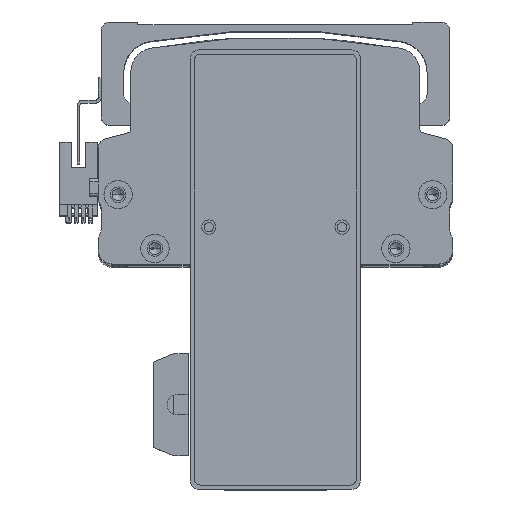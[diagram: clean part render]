
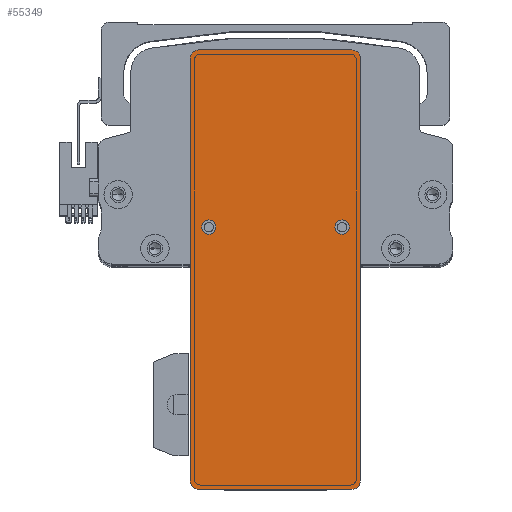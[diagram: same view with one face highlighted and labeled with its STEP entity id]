
A CAD part, top view. The second image highlights one B-rep face of the part: STEP entity #55349.
In plain terms, the highlighted planar face has unit normal (0, 0, 1) as drawn and (0, 0, -1) by its records, which use the part's own axes.
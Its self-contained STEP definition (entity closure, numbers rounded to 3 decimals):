
#164 = DIRECTION ( 'NONE',  ( 1., 0., 0. ) ) ;
#1094 = AXIS2_PLACEMENT_3D ( 'NONE', #57608, #21061, #63761 ) ;
#2536 = VERTEX_POINT ( 'NONE', #43710 ) ;
#3455 = CARTESIAN_POINT ( 'NONE',  ( 0., 0., 0. ) ) ;
#4105 = VERTEX_POINT ( 'NONE', #49235 ) ;
#4913 = EDGE_CURVE ( 'NONE', #64335, #4105, #44412, .T. ) ;
#4998 = DIRECTION ( 'NONE',  ( 0., -1., 0. ) ) ;
#5241 = EDGE_CURVE ( 'NONE', #64335, #20238, #58691, .T. ) ;
#5399 = ORIENTED_EDGE ( 'NONE', *, *, #66113, .F. ) ;
#5611 = ORIENTED_EDGE ( 'NONE', *, *, #6610, .F. ) ;
#5616 = DIRECTION ( 'NONE',  ( 0., 0., -1. ) ) ;
#6035 = CIRCLE ( 'NONE', #15351, 2.5 ) ;
#6610 = EDGE_CURVE ( 'NONE', #39983, #20238, #24691, .T. ) ;
#7161 = ORIENTED_EDGE ( 'NONE', *, *, #43309, .F. ) ;
#7729 = LINE ( 'NONE', #17271, #52618 ) ;
#9559 = DIRECTION ( 'NONE',  ( 1., 0., 0. ) ) ;
#10284 = AXIS2_PLACEMENT_3D ( 'NONE', #60640, #24107, #66817 ) ;
#11219 = CARTESIAN_POINT ( 'NONE',  ( 77.5, -27., 0. ) ) ;
#12627 = CARTESIAN_POINT ( 'NONE',  ( 15., -23.5, 0. ) ) ;
#14011 = CARTESIAN_POINT ( 'NONE',  ( 74.5, 30., 0. ) ) ;
#14229 = CIRCLE ( 'NONE', #45163, 2.5 ) ;
#15096 = FACE_BOUND ( 'NONE', #57802, .T. ) ;
#15351 = AXIS2_PLACEMENT_3D ( 'NONE', #21826, #64534, #27993 ) ;
#15416 = PLANE ( 'NONE',  #32090 ) ;
#15446 = EDGE_CURVE ( 'NONE', #21681, #23137, #6035, .T. ) ;
#17271 = CARTESIAN_POINT ( 'NONE',  ( -77.5, -30., 0. ) ) ;
#17898 = DIRECTION ( 'NONE',  ( 0., 0., -1. ) ) ;
#18727 = DIRECTION ( 'NONE',  ( -1., 0., 0. ) ) ;
#19862 = CARTESIAN_POINT ( 'NONE',  ( 12.5, -23.5, 0. ) ) ;
#20238 = VERTEX_POINT ( 'NONE', #73785 ) ;
#21061 = DIRECTION ( 'NONE',  ( 0., 0., -1. ) ) ;
#21681 = VERTEX_POINT ( 'NONE', #40998 ) ;
#21826 = CARTESIAN_POINT ( 'NONE',  ( 15., 23.5, 0. ) ) ;
#22693 = VERTEX_POINT ( 'NONE', #53913 ) ;
#22969 = EDGE_CURVE ( 'NONE', #22693, #68804, #56086, .T. ) ;
#23121 = CARTESIAN_POINT ( 'NONE',  ( 15., 23.5, 0. ) ) ;
#23137 = VERTEX_POINT ( 'NONE', #71738 ) ;
#23235 = CIRCLE ( 'NONE', #52946, 2.5 ) ;
#24107 = DIRECTION ( 'NONE',  ( 0., 0., -1. ) ) ;
#24648 = ORIENTED_EDGE ( 'NONE', *, *, #36198, .T. ) ;
#24691 = LINE ( 'NONE', #78177, #69584 ) ;
#24938 = AXIS2_PLACEMENT_3D ( 'NONE', #61955, #25413, #68106 ) ;
#25413 = DIRECTION ( 'NONE',  ( 0., 0., -1. ) ) ;
#26981 = EDGE_LOOP ( 'NONE', ( #5611, #58649, #7161, #41375, #68090, #24648, #48370, #32953 ) ) ;
#27993 = DIRECTION ( 'NONE',  ( -1., 0., 0. ) ) ;
#29276 = DIRECTION ( 'NONE',  ( -1., 0., 0. ) ) ;
#29732 = EDGE_CURVE ( 'NONE', #39983, #52616, #54121, .T. ) ;
#32090 = AXIS2_PLACEMENT_3D ( 'NONE', #3455, #46035, #9559 ) ;
#32953 = ORIENTED_EDGE ( 'NONE', *, *, #5241, .T. ) ;
#33035 = ORIENTED_EDGE ( 'NONE', *, *, #22969, .F. ) ;
#36198 = EDGE_CURVE ( 'NONE', #2536, #4105, #78699, .T. ) ;
#36681 = CARTESIAN_POINT ( 'NONE',  ( 77.5, -30., 0. ) ) ;
#37044 = VECTOR ( 'NONE', #164, 1000. ) ;
#37217 = EDGE_CURVE ( 'NONE', #2536, #54632, #7729, .T. ) ;
#39983 = VERTEX_POINT ( 'NONE', #11219 ) ;
#40998 = CARTESIAN_POINT ( 'NONE',  ( 17.5, 23.5, 0. ) ) ;
#41375 = ORIENTED_EDGE ( 'NONE', *, *, #50850, .T. ) ;
#42163 = CARTESIAN_POINT ( 'NONE',  ( -74.5, -27., 0. ) ) ;
#42325 = CARTESIAN_POINT ( 'NONE',  ( -74.5, -30., 0. ) ) ;
#43309 = EDGE_CURVE ( 'NONE', #51404, #52616, #71473, .T. ) ;
#43710 = CARTESIAN_POINT ( 'NONE',  ( -77.5, 27., 0. ) ) ;
#44412 = LINE ( 'NONE', #68976, #75049 ) ;
#45163 = AXIS2_PLACEMENT_3D ( 'NONE', #12627, #55270, #18727 ) ;
#46035 = DIRECTION ( 'NONE',  ( 0., 0., 1. ) ) ;
#48307 = DIRECTION ( 'NONE',  ( 1., 0., 0. ) ) ;
#48370 = ORIENTED_EDGE ( 'NONE', *, *, #4913, .F. ) ;
#49235 = CARTESIAN_POINT ( 'NONE',  ( -74.5, 30., 0. ) ) ;
#49669 = CARTESIAN_POINT ( 'NONE',  ( -77.5, -27., 0. ) ) ;
#50708 = CIRCLE ( 'NONE', #53258, 3. ) ;
#50850 = EDGE_CURVE ( 'NONE', #51404, #54632, #50708, .T. ) ;
#51376 = FACE_BOUND ( 'NONE', #74445, .T. ) ;
#51404 = VERTEX_POINT ( 'NONE', #42325 ) ;
#52574 = EDGE_CURVE ( 'NONE', #68804, #22693, #14229, .T. ) ;
#52616 = VERTEX_POINT ( 'NONE', #55523 ) ;
#52618 = VECTOR ( 'NONE', #4998, 1000. ) ;
#52946 = AXIS2_PLACEMENT_3D ( 'NONE', #23121, #65831, #29276 ) ;
#53258 = AXIS2_PLACEMENT_3D ( 'NONE', #42163, #5616, #48307 ) ;
#53913 = CARTESIAN_POINT ( 'NONE',  ( 17.5, -23.5, 0. ) ) ;
#54121 = CIRCLE ( 'NONE', #10284, 3. ) ;
#54434 = CARTESIAN_POINT ( 'NONE',  ( -74.5, 27., 0. ) ) ;
#54632 = VERTEX_POINT ( 'NONE', #49669 ) ;
#55270 = DIRECTION ( 'NONE',  ( 0., 0., -1. ) ) ;
#55349 = ADVANCED_FACE ( 'NONE', ( #15096, #51376, #63790 ), #15416, .F. ) ;
#55523 = CARTESIAN_POINT ( 'NONE',  ( 74.5, -30., 0. ) ) ;
#56086 = CIRCLE ( 'NONE', #1094, 2.5 ) ;
#57608 = CARTESIAN_POINT ( 'NONE',  ( 15., -23.5, 0. ) ) ;
#57802 = EDGE_LOOP ( 'NONE', ( #5399, #71823 ) ) ;
#58649 = ORIENTED_EDGE ( 'NONE', *, *, #29732, .T. ) ;
#58691 = CIRCLE ( 'NONE', #24938, 3. ) ;
#59951 = DIRECTION ( 'NONE',  ( 0., 1., 0. ) ) ;
#60570 = DIRECTION ( 'NONE',  ( 1., 0., 0. ) ) ;
#60640 = CARTESIAN_POINT ( 'NONE',  ( 74.5, -27., 0. ) ) ;
#61955 = CARTESIAN_POINT ( 'NONE',  ( 74.5, 27., 0. ) ) ;
#63083 = DIRECTION ( 'NONE',  ( -1., 0., 0. ) ) ;
#63761 = DIRECTION ( 'NONE',  ( -1., 0., 0. ) ) ;
#63790 = FACE_OUTER_BOUND ( 'NONE', #26981, .T. ) ;
#64335 = VERTEX_POINT ( 'NONE', #14011 ) ;
#64534 = DIRECTION ( 'NONE',  ( 0., 0., -1. ) ) ;
#65252 = ORIENTED_EDGE ( 'NONE', *, *, #52574, .F. ) ;
#65831 = DIRECTION ( 'NONE',  ( 0., 0., -1. ) ) ;
#66113 = EDGE_CURVE ( 'NONE', #23137, #21681, #23235, .T. ) ;
#66817 = DIRECTION ( 'NONE',  ( 1., 0., 0. ) ) ;
#68090 = ORIENTED_EDGE ( 'NONE', *, *, #37217, .F. ) ;
#68106 = DIRECTION ( 'NONE',  ( 1., 0., 0. ) ) ;
#68804 = VERTEX_POINT ( 'NONE', #19862 ) ;
#68976 = CARTESIAN_POINT ( 'NONE',  ( 77.5, 30., 0. ) ) ;
#69584 = VECTOR ( 'NONE', #59951, 1000. ) ;
#71473 = LINE ( 'NONE', #36681, #37044 ) ;
#71738 = CARTESIAN_POINT ( 'NONE',  ( 12.5, 23.5, 0. ) ) ;
#71823 = ORIENTED_EDGE ( 'NONE', *, *, #15446, .F. ) ;
#73785 = CARTESIAN_POINT ( 'NONE',  ( 77.5, 27., 0. ) ) ;
#74445 = EDGE_LOOP ( 'NONE', ( #65252, #33035 ) ) ;
#75049 = VECTOR ( 'NONE', #63083, 1000. ) ;
#78177 = CARTESIAN_POINT ( 'NONE',  ( 77.5, -30., 0. ) ) ;
#78322 = AXIS2_PLACEMENT_3D ( 'NONE', #54434, #17898, #60570 ) ;
#78699 = CIRCLE ( 'NONE', #78322, 3. ) ;
